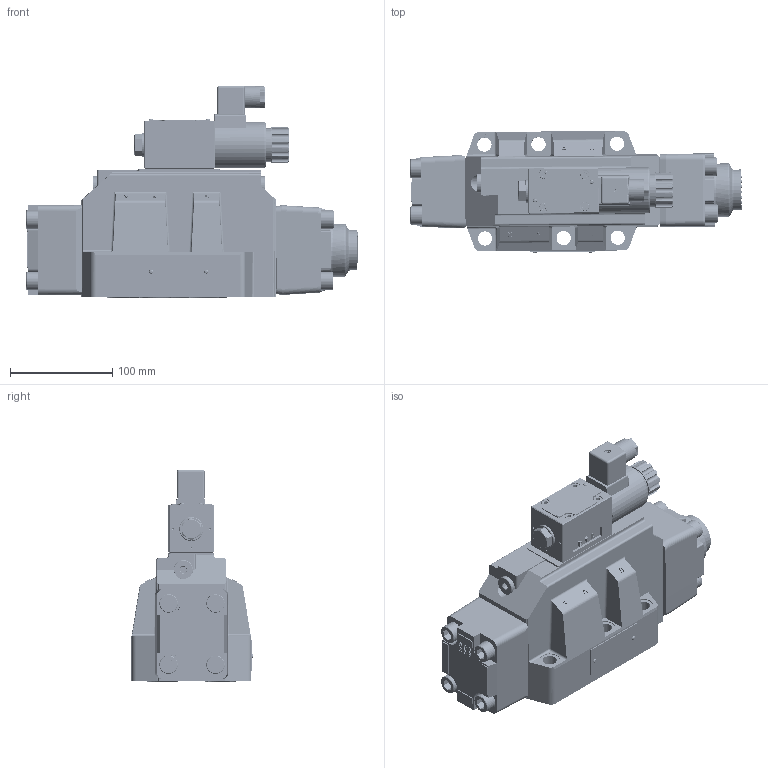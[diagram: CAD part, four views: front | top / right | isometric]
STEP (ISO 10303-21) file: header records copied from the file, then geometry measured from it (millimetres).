
FILE_DESCRIPTION(/* description */ (''),/* implementation_level */ '2;1');
FILE_NAME(/* name */ '4WEH25（C.D.K）-5XJ电液换向阀（二位阀）.prt.stp',/* time_stamp */ '2022-03-30T19:43:07+08:00',/* author */ (''),/* organization */ (''),/* preprocessor_version */ 'ST-DEVELOPER v16.7',/* originating_system */ 'SIEMENS PLM Software NX 12.0',/* authorisation */ '');
FILE_SCHEMA (('AUTOMOTIVE_DESIGN { 1 0 10303 214 3 1 1 1 }'));
Products named in the file (1): 4WEH25（C.D.K）-5XJ电液换向阀（二位阀）
Bounding box: 325.29 x 119.57 x 208.02 mm (x, y, z)
Volume: 2751563.9 mm3; surface area: 384468.3 mm2
Topology: 45 solids, 62 shells, 2297 faces, 6026 edges, 3929 vertices
Faces by surface type: cylinder 933, plane 843, extrusion 161, bspline 152, cone 102, torus 85, sphere 21
Full cylindrical faces by diameter (mm): 1.5 x1, 1.8 x6, 1.9 x4, 2 x5, 2.55 x19, 3 x2, 3.5 x1, 4 x1, 4.2 x33, 5 x115, 5.3 x4, 5.5 x5, 6 x1, 6.5 x2, 7 x1, 8 x1, 8.1 x1, 8.5 x100, 9.4 x4, 9.653 x4, 11 x10, 11.093 x2, 11.1 x2, 12 x168, 12.085 x1, 12.2 x7, 13.2 x1, 14 x10, 14.3 x1, 16.2 x4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
Entity records: 174761 total; most frequent: CARTESIAN_POINT 131525, ORIENTED_EDGE 8478, DIRECTION 7523, EDGE_CURVE 4239, VERTEX_POINT 2889, AXIS2_PLACEMENT_3D 2692, EDGE_LOOP 2315, VECTOR 2139
